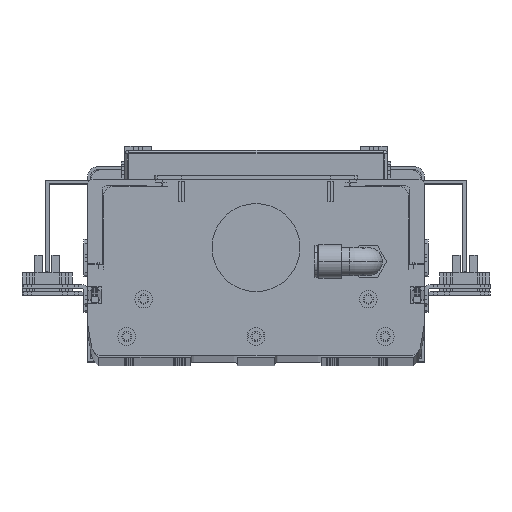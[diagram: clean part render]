
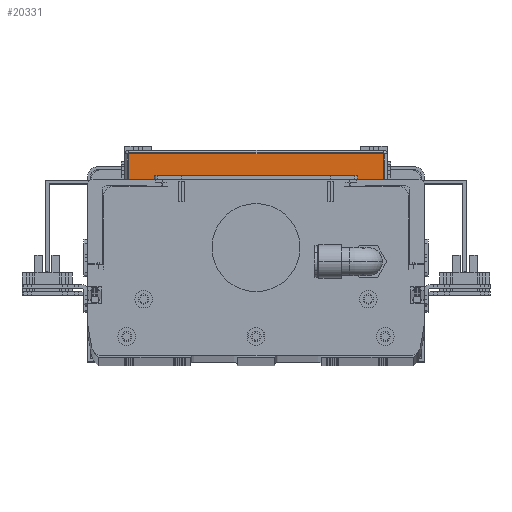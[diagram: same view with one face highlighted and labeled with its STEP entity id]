
A CAD part, top view. The second image highlights one B-rep face of the part: STEP entity #20331.
In plain terms, the highlighted planar face has unit normal (0, 0, 1).
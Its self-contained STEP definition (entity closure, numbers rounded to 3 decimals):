
#20037 = EDGE_CURVE ( 'NONE', #20038, #20039, #64852, .T. ) ;
#20038 = VERTEX_POINT ( 'NONE', #64847 ) ;
#20039 = VERTEX_POINT ( 'NONE', #64846 ) ;
#20331 = ADVANCED_FACE ( 'NONE', ( #65304 ), #65303, .T. ) ;
#20332 = EDGE_LOOP ( 'NONE', ( #20333, #20336, #20337, #20360, #20365, #20369, #20370, #20374 ) ) ;
#20333 = ORIENTED_EDGE ( 'NONE', *, *, #20334, .F. ) ;
#20334 = EDGE_CURVE ( 'NONE', #20038, #20335, #65298, .T. ) ;
#20335 = VERTEX_POINT ( 'NONE', #65294 ) ;
#20336 = ORIENTED_EDGE ( 'NONE', *, *, #20037, .T. ) ;
#20337 = ORIENTED_EDGE ( 'NONE', *, *, #20358, .T. ) ;
#20358 = EDGE_CURVE ( 'NONE', #20039, #20359, #65691, .T. ) ;
#20359 = VERTEX_POINT ( 'NONE', #65778 ) ;
#20360 = ORIENTED_EDGE ( 'NONE', *, *, #20361, .T. ) ;
#20361 = EDGE_CURVE ( 'NONE', #20359, #20362, #65777, .T. ) ;
#20362 = VERTEX_POINT ( 'NONE', #65773 ) ;
#20365 = ORIENTED_EDGE ( 'NONE', *, *, #20367, .T. ) ;
#20367 = EDGE_CURVE ( 'NONE', #20362, #20520, #65767, .T. ) ;
#20369 = ORIENTED_EDGE ( 'NONE', *, *, #20519, .T. ) ;
#20370 = ORIENTED_EDGE ( 'NONE', *, *, #20371, .F. ) ;
#20371 = EDGE_CURVE ( 'NONE', #20372, #20517, #65763, .T. ) ;
#20372 = VERTEX_POINT ( 'NONE', #65759 ) ;
#20374 = ORIENTED_EDGE ( 'NONE', *, *, #20375, .F. ) ;
#20375 = EDGE_CURVE ( 'NONE', #20335, #20372, #65754, .T. ) ;
#20517 = VERTEX_POINT ( 'NONE', #66038 ) ;
#20519 = EDGE_CURVE ( 'NONE', #20520, #20517, #66037, .T. ) ;
#20520 = VERTEX_POINT ( 'NONE', #66033 ) ;
#64846 = CARTESIAN_POINT ( 'NONE',  ( 64.729, 66.18, -109. ) ) ;
#64847 = CARTESIAN_POINT ( 'NONE',  ( 47.729, 66.18, -109. ) ) ;
#64848 = DIRECTION ( 'NONE',  ( 1., 0., 0. ) ) ;
#64850 = VECTOR ( 'NONE', #64848, 1000. ) ;
#64851 = CARTESIAN_POINT ( 'NONE',  ( -73.271, 66.18, -109. ) ) ;
#64852 = LINE ( 'NONE', #64851, #64850 ) ;
#65294 = CARTESIAN_POINT ( 'NONE',  ( 47.729, 66.68, -109. ) ) ;
#65295 = DIRECTION ( 'NONE',  ( 0., 1., 0. ) ) ;
#65296 = VECTOR ( 'NONE', #65295, 1000. ) ;
#65297 = CARTESIAN_POINT ( 'NONE',  ( 47.729, 66.18, -109. ) ) ;
#65298 = LINE ( 'NONE', #65297, #65296 ) ;
#65299 = DIRECTION ( 'NONE',  ( 1., 0., 0. ) ) ;
#65300 = DIRECTION ( 'NONE',  ( 0., 0., 1. ) ) ;
#65301 = CARTESIAN_POINT ( 'NONE',  ( -73.271, 66.18, -109. ) ) ;
#65302 = AXIS2_PLACEMENT_3D ( 'NONE', #65301, #65300, #65299 ) ;
#65303 = PLANE ( 'NONE',  #65302 ) ;
#65304 = FACE_OUTER_BOUND ( 'NONE', #20332, .T. ) ;
#65688 = DIRECTION ( 'NONE',  ( 0., 1., 0. ) ) ;
#65689 = VECTOR ( 'NONE', #65688, 1000. ) ;
#65690 = CARTESIAN_POINT ( 'NONE',  ( 64.729, 84.18, -109. ) ) ;
#65691 = LINE ( 'NONE', #65690, #65689 ) ;
#65748 = DIRECTION ( 'NONE',  ( -1., 0., 0. ) ) ;
#65752 = VECTOR ( 'NONE', #65748, 1000. ) ;
#65753 = CARTESIAN_POINT ( 'NONE',  ( -54.271, 66.68, -109. ) ) ;
#65754 = LINE ( 'NONE', #65753, #65752 ) ;
#65759 = CARTESIAN_POINT ( 'NONE',  ( -54.271, 66.68, -109. ) ) ;
#65760 = DIRECTION ( 'NONE',  ( 0., -1., 0. ) ) ;
#65761 = VECTOR ( 'NONE', #65760, 1000. ) ;
#65762 = CARTESIAN_POINT ( 'NONE',  ( -54.271, 66.18, -109. ) ) ;
#65763 = LINE ( 'NONE', #65762, #65761 ) ;
#65764 = DIRECTION ( 'NONE',  ( 0., -1., 0. ) ) ;
#65765 = VECTOR ( 'NONE', #65764, 1000. ) ;
#65766 = CARTESIAN_POINT ( 'NONE',  ( -71.271, 66.18, -109. ) ) ;
#65767 = LINE ( 'NONE', #65766, #65765 ) ;
#65773 = CARTESIAN_POINT ( 'NONE',  ( -71.271, 82.18, -109. ) ) ;
#65774 = DIRECTION ( 'NONE',  ( -1., 0., 0. ) ) ;
#65775 = VECTOR ( 'NONE', #65774, 1000. ) ;
#65776 = CARTESIAN_POINT ( 'NONE',  ( -73.271, 82.18, -109. ) ) ;
#65777 = LINE ( 'NONE', #65776, #65775 ) ;
#65778 = CARTESIAN_POINT ( 'NONE',  ( 64.729, 82.18, -109. ) ) ;
#66033 = CARTESIAN_POINT ( 'NONE',  ( -71.271, 66.18, -109. ) ) ;
#66034 = DIRECTION ( 'NONE',  ( 1., 0., 0. ) ) ;
#66035 = VECTOR ( 'NONE', #66034, 1000. ) ;
#66036 = CARTESIAN_POINT ( 'NONE',  ( -73.271, 66.18, -109. ) ) ;
#66037 = LINE ( 'NONE', #66036, #66035 ) ;
#66038 = CARTESIAN_POINT ( 'NONE',  ( -54.271, 66.18, -109. ) ) ;
